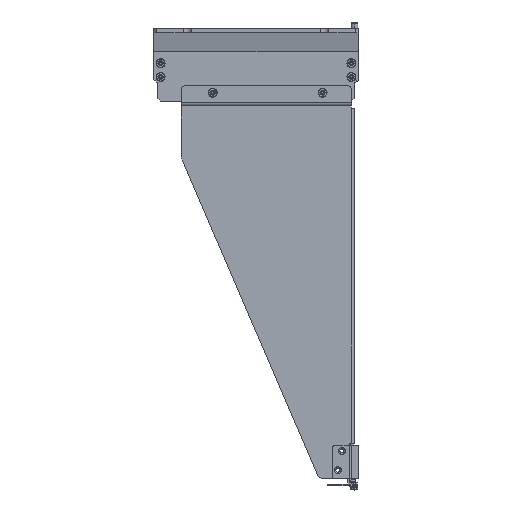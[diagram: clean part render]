
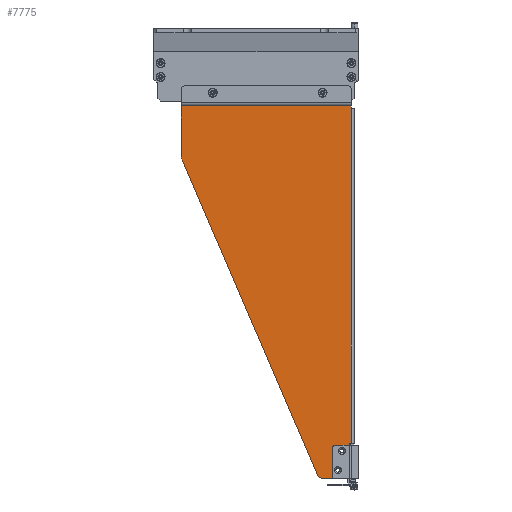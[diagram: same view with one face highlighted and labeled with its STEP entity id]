
A CAD part, left-side view. The second image highlights one B-rep face of the part: STEP entity #7775.
In plain terms, the highlighted planar face has unit normal (-1, 0, 0).
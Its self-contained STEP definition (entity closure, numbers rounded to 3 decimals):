
#6929=DIRECTION('',(0.,0.,1.));
#6930=VECTOR('',#6929,243.6);
#6931=CARTESIAN_POINT('',(-217.,-60.8,-302.));
#6932=LINE('',#6931,#6930);
#6933=DIRECTION('',(0.,1.,0.));
#6934=VECTOR('',#6933,1.3);
#6935=CARTESIAN_POINT('',(-217.,-60.8,-302.));
#6936=LINE('',#6935,#6934);
#6937=CARTESIAN_POINT('',(-217.,-40.793,-323.));
#6938=DIRECTION('',(1.,0.,0.));
#6939=DIRECTION('',(0.,0.,-1.));
#6940=AXIS2_PLACEMENT_3D('',#6937,#6938,#6939);
#6942=DIRECTION('',(0.,0.395,0.919));
#6943=VECTOR('',#6942,249.134);
#6944=CARTESIAN_POINT('',(-217.,-36.2,-324.975));
#6945=LINE('',#6944,#6943);
#6946=CARTESIAN_POINT('',(-217.,53.,-92.142));
#6947=DIRECTION('',(1.,0.,0.));
#6948=DIRECTION('',(0.,0.919,-0.395));
#6949=AXIS2_PLACEMENT_3D('',#6946,#6947,#6948);
#6951=DIRECTION('',(0.,0.,1.));
#6952=VECTOR('',#6951,35.742);
#6953=CARTESIAN_POINT('',(-217.,63.,-92.142));
#6954=LINE('',#6953,#6952);
#6955=DIRECTION('',(0.,0.,-1.));
#6956=VECTOR('',#6955,2.);
#6957=CARTESIAN_POINT('',(-217.,-61.,-56.4));
#6958=LINE('',#6957,#6956);
#6959=DIRECTION('',(0.,1.,0.));
#6960=VECTOR('',#6959,0.2);
#6961=CARTESIAN_POINT('',(-217.,-61.,-58.4));
#6962=LINE('',#6961,#6960);
#6963=CARTESIAN_POINT('',(-217.,-54.1,-307.7));
#6964=DIRECTION('',(-1.,0.,0.));
#6965=DIRECTION('',(0.,0.,-1.));
#6966=AXIS2_PLACEMENT_3D('',#6963,#6964,#6965);
#6968=CARTESIAN_POINT('',(-217.,-54.1,-307.7));
#6969=DIRECTION('',(-1.,0.,0.));
#6970=DIRECTION('',(0.,0.,1.));
#6971=AXIS2_PLACEMENT_3D('',#6968,#6969,#6970);
#6973=CARTESIAN_POINT('',(-217.,-51.1,-321.7));
#6974=DIRECTION('',(-1.,0.,0.));
#6975=DIRECTION('',(0.,0.,-1.));
#6976=AXIS2_PLACEMENT_3D('',#6973,#6974,#6975);
#6978=CARTESIAN_POINT('',(-217.,-51.1,-321.7));
#6979=DIRECTION('',(-1.,0.,0.));
#6980=DIRECTION('',(0.,0.,1.));
#6981=AXIS2_PLACEMENT_3D('',#6978,#6979,#6980);
#6983=DIRECTION('',(0.,0.,1.));
#6984=VECTOR('',#6983,26.);
#6985=CARTESIAN_POINT('',(-217.,-59.5,-328.));
#6986=LINE('',#6985,#6984);
#6991=DIRECTION('',(0.,-1.,0.));
#6992=VECTOR('',#6991,18.707);
#6993=CARTESIAN_POINT('',(-217.,-40.793,-328.));
#6994=LINE('',#6993,#6992);
#7217=DIRECTION('',(0.,1.,0.));
#7218=VECTOR('',#7217,124.);
#7219=CARTESIAN_POINT('',(-217.,-61.,-56.4));
#7220=LINE('',#7219,#7218);
#7450=CARTESIAN_POINT('',(-217.,-60.8,-302.));
#7451=VERTEX_POINT('',#7450);
#7452=CARTESIAN_POINT('',(-217.,-60.8,-58.4));
#7453=VERTEX_POINT('',#7452);
#7456=CARTESIAN_POINT('',(-217.,-59.5,-302.));
#7457=VERTEX_POINT('',#7456);
#7458=CARTESIAN_POINT('',(-217.,-59.5,-328.));
#7459=VERTEX_POINT('',#7458);
#7460=CARTESIAN_POINT('',(-217.,-40.793,-328.));
#7461=VERTEX_POINT('',#7460);
#7462=CARTESIAN_POINT('',(-217.,-36.2,-324.975));
#7463=VERTEX_POINT('',#7462);
#7464=CARTESIAN_POINT('',(-217.,62.187,-96.091));
#7465=VERTEX_POINT('',#7464);
#7466=CARTESIAN_POINT('',(-217.,63.,-92.142));
#7467=VERTEX_POINT('',#7466);
#7468=CARTESIAN_POINT('',(-217.,63.,-56.4));
#7469=VERTEX_POINT('',#7468);
#7470=CARTESIAN_POINT('',(-217.,-61.,-56.4));
#7471=VERTEX_POINT('',#7470);
#7472=CARTESIAN_POINT('',(-217.,-61.,-58.4));
#7473=VERTEX_POINT('',#7472);
#7474=CARTESIAN_POINT('',(-217.,-54.1,-309.2));
#7475=CARTESIAN_POINT('',(-217.,-54.1,-306.2));
#7476=VERTEX_POINT('',#7474);
#7477=VERTEX_POINT('',#7475);
#7478=CARTESIAN_POINT('',(-217.,-51.1,-323.2));
#7479=CARTESIAN_POINT('',(-217.,-51.1,-320.2));
#7480=VERTEX_POINT('',#7478);
#7481=VERTEX_POINT('',#7479);
#7735=CARTESIAN_POINT('',(-217.,0.,0.));
#7736=DIRECTION('',(1.,0.,0.));
#7737=DIRECTION('',(0.,0.,-1.));
#7738=AXIS2_PLACEMENT_3D('',#7735,#7736,#7737);
#7739=PLANE('',#7738);
#7741=ORIENTED_EDGE('',*,*,#7740,.T.);
#7743=ORIENTED_EDGE('',*,*,#7742,.F.);
#7745=ORIENTED_EDGE('',*,*,#7744,.F.);
#7747=ORIENTED_EDGE('',*,*,#7746,.T.);
#7749=ORIENTED_EDGE('',*,*,#7748,.T.);
#7751=ORIENTED_EDGE('',*,*,#7750,.T.);
#7753=ORIENTED_EDGE('',*,*,#7752,.T.);
#7755=ORIENTED_EDGE('',*,*,#7754,.F.);
#7757=ORIENTED_EDGE('',*,*,#7756,.T.);
#7759=ORIENTED_EDGE('',*,*,#7758,.T.);
#7760=ORIENTED_EDGE('',*,*,#7726,.F.);
#7761=EDGE_LOOP('',(#7741,#7743,#7745,#7747,#7749,#7751,#7753,#7755,#7757,#7759,
#7760));
#7762=FACE_OUTER_BOUND('',#7761,.F.);
#7764=ORIENTED_EDGE('',*,*,#7763,.T.);
#7766=ORIENTED_EDGE('',*,*,#7765,.T.);
#7767=EDGE_LOOP('',(#7764,#7766));
#7768=FACE_BOUND('',#7767,.F.);
#7770=ORIENTED_EDGE('',*,*,#7769,.T.);
#7772=ORIENTED_EDGE('',*,*,#7771,.T.);
#7773=EDGE_LOOP('',(#7770,#7772));
#7774=FACE_BOUND('',#7773,.F.);
#7775=ADVANCED_FACE('',(#7762,#7768,#7774),#7739,.F.);
#6941=CIRCLE('',#6940,5.);
#6950=CIRCLE('',#6949,10.);
#6967=CIRCLE('',#6966,1.5);
#6972=CIRCLE('',#6971,1.5);
#6977=CIRCLE('',#6976,1.5);
#6982=CIRCLE('',#6981,1.5);
#7726=EDGE_CURVE('',#7451,#7453,#6932,.T.);
#7740=EDGE_CURVE('',#7451,#7457,#6936,.T.);
#7742=EDGE_CURVE('',#7459,#7457,#6986,.T.);
#7744=EDGE_CURVE('',#7461,#7459,#6994,.T.);
#7746=EDGE_CURVE('',#7461,#7463,#6941,.T.);
#7748=EDGE_CURVE('',#7463,#7465,#6945,.T.);
#7750=EDGE_CURVE('',#7465,#7467,#6950,.T.);
#7752=EDGE_CURVE('',#7467,#7469,#6954,.T.);
#7754=EDGE_CURVE('',#7471,#7469,#7220,.T.);
#7756=EDGE_CURVE('',#7471,#7473,#6958,.T.);
#7758=EDGE_CURVE('',#7473,#7453,#6962,.T.);
#7763=EDGE_CURVE('',#7476,#7477,#6967,.T.);
#7765=EDGE_CURVE('',#7477,#7476,#6972,.T.);
#7769=EDGE_CURVE('',#7480,#7481,#6977,.T.);
#7771=EDGE_CURVE('',#7481,#7480,#6982,.T.);
